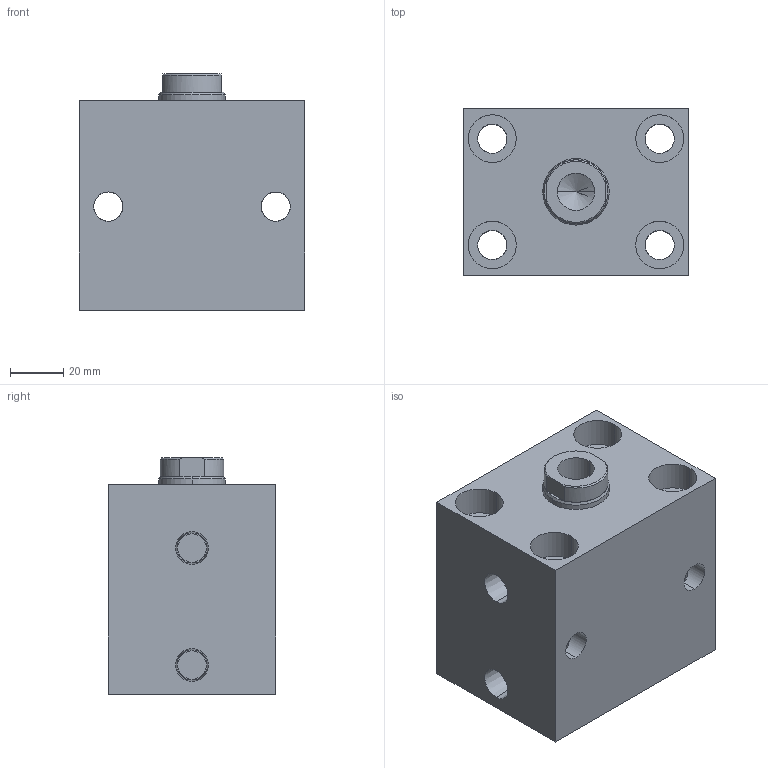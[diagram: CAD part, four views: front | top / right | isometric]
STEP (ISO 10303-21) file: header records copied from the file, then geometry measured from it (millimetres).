
FILE_DESCRIPTION (( 'STEP AP203' ), '1' );
FILE_NAME ('HBC-40D-25N装配体.STEP', '2019-11-29T08:57:22', ( '微软用户' ), ( '微软中国' ), 'SwSTEP 2.0', 'SolidWorks 2012', '' );
FILE_SCHEMA (( 'CONFIG_CONTROL_DESIGN' ));
Length unit declared in the file: millimetre
Products named in the file (3): HBC-40D-25N掛极; HBC-40D-25N活塞杆; HBC-40D-25N蚾饜极
Assembly tree (2 placements, depth 2):
  HBC-40D-25N蚾饜极
    HBC-40D-25N掛极
    HBC-40D-25N活塞杆
Bounding box: 85 x 63 x 89 mm (x, y, z)
Volume: 355705 mm3; surface area: 67861.2 mm2
Topology: 2 solids, 2 shells, 84 faces, 200 edges, 123 vertices
Faces by surface type: cylinder 52, plane 22, cone 10
Entity records: 2759 total; most frequent: CARTESIAN_POINT 518, DIRECTION 424, ORIENTED_EDGE 396, EDGE_CURVE 198, AXIS2_PLACEMENT_3D 173, VERTEX_POINT 123, EDGE_LOOP 109, CIRCLE 84
